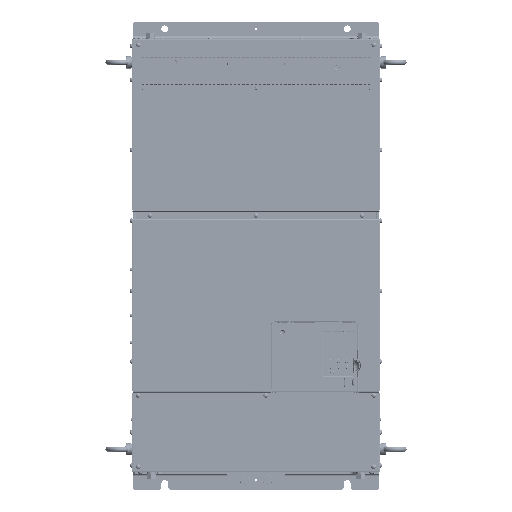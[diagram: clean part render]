
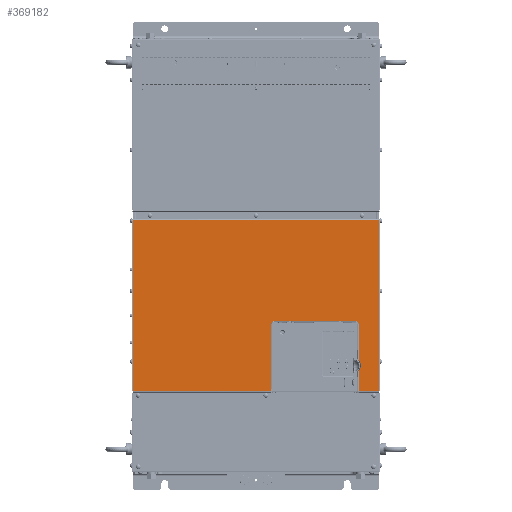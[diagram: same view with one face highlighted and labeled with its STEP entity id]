
A CAD part, top view. The second image highlights one B-rep face of the part: STEP entity #369182.
In plain terms, the highlighted planar face has unit normal (0, 0, 1).
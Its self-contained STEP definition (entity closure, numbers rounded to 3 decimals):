
#367157=CARTESIAN_POINT('',(251.395,72.895,370.));
#367158=DIRECTION('',(0.,0.,1.));
#367159=DIRECTION('',(-0.894,-0.448,0.));
#367160=AXIS2_PLACEMENT_3D('',#367157,#367158,#367159);
#367162=DIRECTION('',(0.,1.,0.));
#367163=VECTOR('',#367162,42.204);
#367164=CARTESIAN_POINT('',(209.,-275.293,370.));
#367165=LINE('',#367164,#367163);
#367166=CARTESIAN_POINT('',(209.,-233.089,370.));
#367167=CARTESIAN_POINT('',(209.293,-232.767,370.));
#367168=CARTESIAN_POINT('',(209.848,-232.1,370.));
#367169=CARTESIAN_POINT('',(210.592,-231.029,370.));
#367170=CARTESIAN_POINT('',(211.241,-229.899,370.));
#367171=CARTESIAN_POINT('',(211.788,-228.717,370.));
#367172=CARTESIAN_POINT('',(212.231,-227.491,370.));
#367173=CARTESIAN_POINT('',(212.567,-226.233,370.));
#367174=CARTESIAN_POINT('',(212.792,-224.949,370.));
#367175=CARTESIAN_POINT('',(212.905,-223.651,370.));
#367176=CARTESIAN_POINT('',(212.905,-222.349,370.));
#367177=CARTESIAN_POINT('',(212.792,-221.051,370.));
#367178=CARTESIAN_POINT('',(212.567,-219.767,370.));
#367179=CARTESIAN_POINT('',(212.231,-218.509,370.));
#367180=CARTESIAN_POINT('',(211.788,-217.283,370.));
#367181=CARTESIAN_POINT('',(211.241,-216.101,370.));
#367182=CARTESIAN_POINT('',(210.592,-214.971,370.));
#367183=CARTESIAN_POINT('',(209.848,-213.9,370.));
#367184=CARTESIAN_POINT('',(209.293,-213.233,370.));
#367185=CARTESIAN_POINT('',(209.,-212.911,370.));
#367187=DIRECTION('',(0.,1.,0.));
#367188=VECTOR('',#367187,73.911);
#367189=CARTESIAN_POINT('',(209.,-212.911,370.));
#367190=LINE('',#367189,#367188);
#367191=CARTESIAN_POINT('',(209.,-139.,370.));
#367192=CARTESIAN_POINT('',(209.,-138.775,370.));
#367193=CARTESIAN_POINT('',(208.975,-138.327,370.));
#367194=CARTESIAN_POINT('',(208.862,-137.662,370.));
#367195=CARTESIAN_POINT('',(208.675,-137.014,370.));
#367196=CARTESIAN_POINT('',(208.417,-136.391,370.));
#367197=CARTESIAN_POINT('',(208.091,-135.8,370.));
#367198=CARTESIAN_POINT('',(207.7,-135.25,370.));
#367199=CARTESIAN_POINT('',(207.25,-134.747,370.));
#367200=CARTESIAN_POINT('',(206.747,-134.298,370.));
#367201=CARTESIAN_POINT('',(206.198,-133.908,370.));
#367202=CARTESIAN_POINT('',(205.607,-133.582,370.));
#367203=CARTESIAN_POINT('',(204.986,-133.325,370.));
#367204=CARTESIAN_POINT('',(204.339,-133.138,370.));
#367205=CARTESIAN_POINT('',(203.673,-133.025,370.));
#367206=CARTESIAN_POINT('',(203.226,-133.,370.));
#367207=CARTESIAN_POINT('',(203.,-133.,370.));
#367209=DIRECTION('',(-1.,0.,0.));
#367210=VECTOR('',#367209,166.);
#367211=CARTESIAN_POINT('',(203.,-133.,370.));
#367212=LINE('',#367211,#367210);
#367213=CARTESIAN_POINT('',(37.,-133.,370.));
#367214=CARTESIAN_POINT('',(36.775,-133.,370.));
#367215=CARTESIAN_POINT('',(36.327,-133.025,370.));
#367216=CARTESIAN_POINT('',(35.662,-133.138,370.));
#367217=CARTESIAN_POINT('',(35.014,-133.325,370.));
#367218=CARTESIAN_POINT('',(34.391,-133.583,370.));
#367219=CARTESIAN_POINT('',(33.8,-133.909,370.));
#367220=CARTESIAN_POINT('',(33.25,-134.3,370.));
#367221=CARTESIAN_POINT('',(32.747,-134.75,370.));
#367222=CARTESIAN_POINT('',(32.298,-135.253,370.));
#367223=CARTESIAN_POINT('',(31.908,-135.802,370.));
#367224=CARTESIAN_POINT('',(31.582,-136.393,370.));
#367225=CARTESIAN_POINT('',(31.325,-137.014,370.));
#367226=CARTESIAN_POINT('',(31.138,-137.661,370.));
#367227=CARTESIAN_POINT('',(31.025,-138.327,370.));
#367228=CARTESIAN_POINT('',(31.,-138.774,370.));
#367229=CARTESIAN_POINT('',(31.,-139.,370.));
#367231=DIRECTION('',(0.,-1.,0.));
#367232=VECTOR('',#367231,136.293);
#367233=CARTESIAN_POINT('',(31.,-139.,370.));
#367234=LINE('',#367233,#367232);
#367235=CARTESIAN_POINT('',(-251.395,72.895,370.));
#367236=DIRECTION('',(0.,0.,1.));
#367237=DIRECTION('',(0.448,-0.894,0.));
#367238=AXIS2_PLACEMENT_3D('',#367235,#367236,#367237);
#367244=DIRECTION('',(0.,1.,0.));
#367245=VECTOR('',#367244,346.399);
#367246=CARTESIAN_POINT('',(250.5,-275.293,370.));
#367247=LINE('',#367246,#367245);
#367392=DIRECTION('',(1.,0.,0.));
#367393=VECTOR('',#367392,41.5);
#367394=CARTESIAN_POINT('',(209.,-275.293,370.));
#367395=LINE('',#367394,#367393);
#367626=DIRECTION('',(1.,0.,0.));
#367627=VECTOR('',#367626,281.5);
#367628=CARTESIAN_POINT('',(-250.5,-275.293,370.));
#367629=LINE('',#367628,#367627);
#368008=CARTESIAN_POINT('',(-250.5,71.107,370.));
#368010=DIRECTION('',(0.,-1.,0.));
#368011=VECTOR('',#368010,346.399);
#368012=CARTESIAN_POINT('',(-250.5,71.107,370.));
#368013=LINE('',#368012,#368011);
#368141=DIRECTION('',(-1.,0.,0.));
#368142=VECTOR('',#368141,499.213);
#368143=CARTESIAN_POINT('',(249.607,72.,370.));
#368144=LINE('',#368143,#368142);
#368819=CARTESIAN_POINT('',(250.5,71.107,370.));
#368820=VERTEX_POINT('',#368819);
#368821=CARTESIAN_POINT('',(209.,-275.293,370.));
#368822=CARTESIAN_POINT('',(209.,-233.089,370.));
#368823=VERTEX_POINT('',#368821);
#368824=VERTEX_POINT('',#368822);
#368825=VERTEX_POINT('',#367185);
#368826=CARTESIAN_POINT('',(209.,-139.,370.));
#368827=VERTEX_POINT('',#368826);
#368828=VERTEX_POINT('',#367207);
#368829=CARTESIAN_POINT('',(37.,-133.,370.));
#368830=VERTEX_POINT('',#368829);
#368831=VERTEX_POINT('',#367229);
#368832=CARTESIAN_POINT('',(31.,-275.293,370.));
#368833=VERTEX_POINT('',#368832);
#368835=CARTESIAN_POINT('',(250.5,-275.293,370.));
#368837=VERTEX_POINT('',#368835);
#368939=CARTESIAN_POINT('',(-250.5,-275.293,370.));
#368941=VERTEX_POINT('',#368939);
#368947=VERTEX_POINT('',#368008);
#369021=CARTESIAN_POINT('',(249.607,72.,370.));
#369022=VERTEX_POINT('',#369021);
#369023=CARTESIAN_POINT('',(-249.607,72.,370.));
#369024=VERTEX_POINT('',#369023);
#369148=CARTESIAN_POINT('',(0.,-101.5,370.));
#369149=DIRECTION('',(0.,0.,-1.));
#369150=DIRECTION('',(-1.,0.,0.));
#369151=AXIS2_PLACEMENT_3D('',#369148,#369149,#369150);
#369152=PLANE('',#369151);
#369153=ORIENTED_EDGE('',*,*,#369141,.T.);
#369155=ORIENTED_EDGE('',*,*,#369154,.F.);
#369157=ORIENTED_EDGE('',*,*,#369156,.F.);
#369159=ORIENTED_EDGE('',*,*,#369158,.T.);
#369161=ORIENTED_EDGE('',*,*,#369160,.T.);
#369163=ORIENTED_EDGE('',*,*,#369162,.T.);
#369165=ORIENTED_EDGE('',*,*,#369164,.T.);
#369167=ORIENTED_EDGE('',*,*,#369166,.T.);
#369169=ORIENTED_EDGE('',*,*,#369168,.T.);
#369171=ORIENTED_EDGE('',*,*,#369170,.T.);
#369173=ORIENTED_EDGE('',*,*,#369172,.F.);
#369175=ORIENTED_EDGE('',*,*,#369174,.F.);
#369177=ORIENTED_EDGE('',*,*,#369176,.T.);
#369179=ORIENTED_EDGE('',*,*,#369178,.F.);
#369180=EDGE_LOOP('',(#369153,#369155,#369157,#369159,#369161,#369163,#369165,
#369167,#369169,#369171,#369173,#369175,#369177,#369179));
#369181=FACE_OUTER_BOUND('',#369180,.F.);
#367161=CIRCLE('',#367160,2.);
#367186=B_SPLINE_CURVE_WITH_KNOTS('',3,(#367166,#367167,#367168,#367169,#367170,
#367171,#367172,#367173,#367174,#367175,#367176,#367177,#367178,#367179,#367180,
#367181,#367182,#367183,#367184,#367185),.UNSPECIFIED.,.F.,.F.,(4,1,1,1,1,1,1,1,
1,1,1,1,1,1,1,1,1,4),(0.,0.059,0.118,
0.176,0.235,0.294,0.353,
0.412,0.471,0.529,0.588,
0.647,0.706,0.765,0.824,
0.882,0.941,1.),.UNSPECIFIED.);
#367208=B_SPLINE_CURVE_WITH_KNOTS('',3,(#367191,#367192,#367193,#367194,#367195,
#367196,#367197,#367198,#367199,#367200,#367201,#367202,#367203,#367204,#367205,
#367206,#367207),.UNSPECIFIED.,.F.,.F.,(4,1,1,1,1,1,1,1,1,1,1,1,1,1,4),(0.,
0.071,0.143,0.214,0.286,
0.357,0.429,0.5,0.571,0.643,
0.714,0.786,0.857,0.929,1.),
.UNSPECIFIED.);
#367230=B_SPLINE_CURVE_WITH_KNOTS('',3,(#367213,#367214,#367215,#367216,#367217,
#367218,#367219,#367220,#367221,#367222,#367223,#367224,#367225,#367226,#367227,
#367228,#367229),.UNSPECIFIED.,.F.,.F.,(4,1,1,1,1,1,1,1,1,1,1,1,1,1,4),(0.,
0.071,0.143,0.214,0.286,
0.357,0.429,0.5,0.571,0.643,
0.714,0.786,0.857,0.929,1.),
.UNSPECIFIED.);
#367239=CIRCLE('',#367238,2.);
#369141=EDGE_CURVE('',#369022,#368820,#367161,.T.);
#369154=EDGE_CURVE('',#368837,#368820,#367247,.T.);
#369156=EDGE_CURVE('',#368823,#368837,#367395,.T.);
#369158=EDGE_CURVE('',#368823,#368824,#367165,.T.);
#369160=EDGE_CURVE('',#368824,#368825,#367186,.T.);
#369162=EDGE_CURVE('',#368825,#368827,#367190,.T.);
#369164=EDGE_CURVE('',#368827,#368828,#367208,.T.);
#369166=EDGE_CURVE('',#368828,#368830,#367212,.T.);
#369168=EDGE_CURVE('',#368830,#368831,#367230,.T.);
#369170=EDGE_CURVE('',#368831,#368833,#367234,.T.);
#369172=EDGE_CURVE('',#368941,#368833,#367629,.T.);
#369174=EDGE_CURVE('',#368947,#368941,#368013,.T.);
#369176=EDGE_CURVE('',#368947,#369024,#367239,.T.);
#369178=EDGE_CURVE('',#369022,#369024,#368144,.T.);
#369182=ADVANCED_FACE('',(#369181),#369152,.F.);
